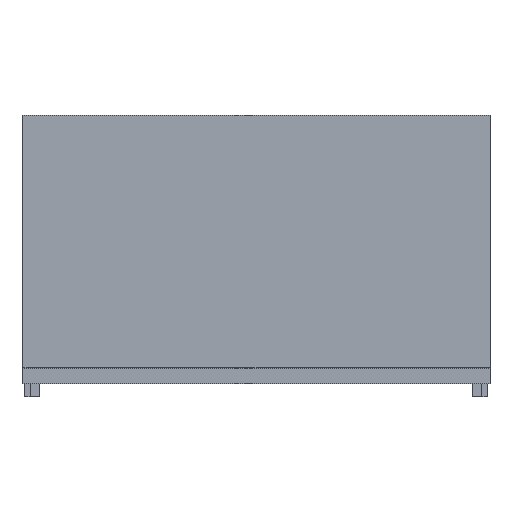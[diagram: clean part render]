
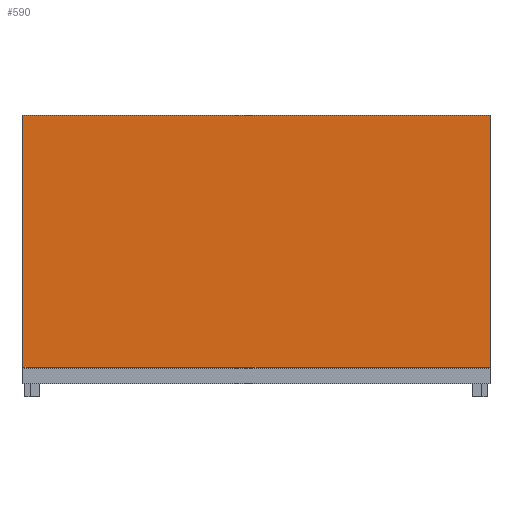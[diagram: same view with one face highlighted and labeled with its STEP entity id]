
A CAD part, top view. The second image highlights one B-rep face of the part: STEP entity #590.
In plain terms, the highlighted planar face has unit normal (0, 0, 1).
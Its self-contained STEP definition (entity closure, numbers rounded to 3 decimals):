
#590=ADVANCED_FACE('',(#4774),#4776,.T.);
#4774=FACE_BOUND('',#4775,.T.);
#4775=EDGE_LOOP('',(#8457,#8458,#8459,#8460));
#4776=PLANE('',#4777);
#4777=AXIS2_PLACEMENT_3D('',#4778,#4779,#4780);
#4778=CARTESIAN_POINT('',(0.,50.25,141.3));
#4779=DIRECTION('',(0.,0.,1.));
#4780=DIRECTION('',(1.,0.,0.));
#8457=ORIENTED_EDGE('',*,*,#10240,.T.);
#8458=ORIENTED_EDGE('',*,*,#10263,.F.);
#8459=ORIENTED_EDGE('',*,*,#10261,.F.);
#8460=ORIENTED_EDGE('',*,*,#10259,.F.);
#10240=EDGE_CURVE('',#12945,#12943,#12946,.T.);
#10259=EDGE_CURVE('',#12945,#12973,#12974,.F.);
#10261=EDGE_CURVE('',#12973,#12976,#12977,.F.);
#10263=EDGE_CURVE('',#12976,#12943,#12979,.F.);
#12943=VERTEX_POINT('',#19412);
#12945=VERTEX_POINT('',#19416);
#12946=LINE('',#19417,#19418);
#12973=VERTEX_POINT('',#19482);
#12974=LINE('',#19483,#19484);
#12976=VERTEX_POINT('',#19489);
#12977=LINE('',#19490,#19491);
#12979=LINE('',#19496,#19497);
#19412=CARTESIAN_POINT('',(672.8,-311.5,141.3));
#19416=CARTESIAN_POINT('',(-672.8,-311.5,141.3));
#19417=CARTESIAN_POINT('',(-672.8,-311.5,141.3));
#19418=VECTOR('',#19419,1.);
#19419=DIRECTION('',(1.,0.,0.));
#19482=CARTESIAN_POINT('',(-672.8,413.3,141.3));
#19483=CARTESIAN_POINT('',(-672.8,413.3,141.3));
#19484=VECTOR('',#19485,1.);
#19485=DIRECTION('',(0.,-1.,0.));
#19489=CARTESIAN_POINT('',(672.8,413.3,141.3));
#19490=CARTESIAN_POINT('',(672.8,413.3,141.3));
#19491=VECTOR('',#19492,1.);
#19492=DIRECTION('',(-1.,0.,0.));
#19496=CARTESIAN_POINT('',(672.8,-311.5,141.3));
#19497=VECTOR('',#19498,1.);
#19498=DIRECTION('',(0.,1.,0.));
